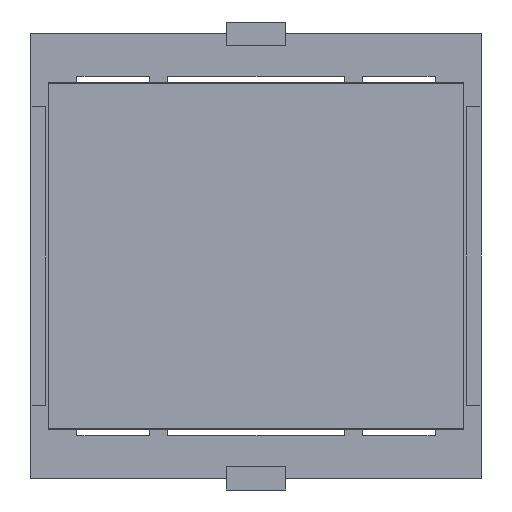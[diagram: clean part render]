
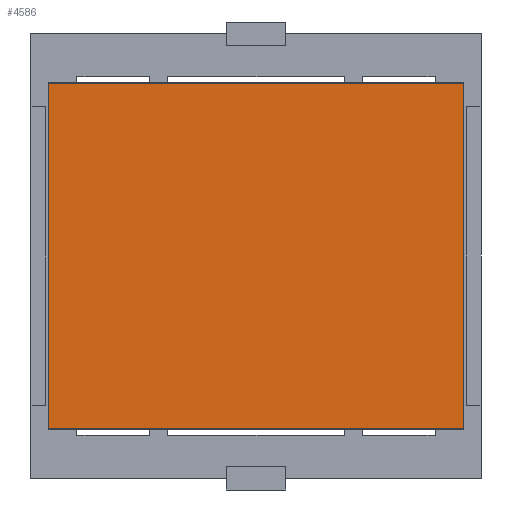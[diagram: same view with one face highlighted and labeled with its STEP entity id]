
A CAD part, front view. The second image highlights one B-rep face of the part: STEP entity #4586.
In plain terms, the highlighted planar face has unit normal (0, -1, 0).
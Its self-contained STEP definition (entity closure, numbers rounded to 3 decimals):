
#113 = DIRECTION ( 'NONE',  ( 0., 1., 0. ) ) ;
#233 = EDGE_CURVE ( 'NONE', #2353, #2047, #1103, .T. ) ;
#828 = DIRECTION ( 'NONE',  ( 1., 0., 0. ) ) ;
#922 = LINE ( 'NONE', #1442, #2585 ) ;
#971 = CARTESIAN_POINT ( 'NONE',  ( -15.712, -18.701, -2.749 ) ) ;
#1033 = CARTESIAN_POINT ( 'NONE',  ( 19.086, -18.701, 26.207 ) ) ;
#1103 = LINE ( 'NONE', #1744, #5875 ) ;
#1170 = CARTESIAN_POINT ( 'NONE',  ( -15.712, -18.701, -2.749 ) ) ;
#1356 = VECTOR ( 'NONE', #2687, 1000. ) ;
#1442 = CARTESIAN_POINT ( 'NONE',  ( -15.712, -18.701, 26.207 ) ) ;
#1549 = VERTEX_POINT ( 'NONE', #5563 ) ;
#1564 = ORIENTED_EDGE ( 'NONE', *, *, #233, .F. ) ;
#1574 = ORIENTED_EDGE ( 'NONE', *, *, #4950, .F. ) ;
#1683 = FACE_OUTER_BOUND ( 'NONE', #2559, .T. ) ;
#1744 = CARTESIAN_POINT ( 'NONE',  ( 19.086, -18.701, -2.749 ) ) ;
#2047 = VERTEX_POINT ( 'NONE', #4556 ) ;
#2353 = VERTEX_POINT ( 'NONE', #1033 ) ;
#2559 = EDGE_LOOP ( 'NONE', ( #4987, #1574, #1564, #3502 ) ) ;
#2585 = VECTOR ( 'NONE', #828, 1000. ) ;
#2687 = DIRECTION ( 'NONE',  ( -1., 0., 0. ) ) ;
#2711 = DIRECTION ( 'NONE',  ( 0., 0., 1. ) ) ;
#2780 = VECTOR ( 'NONE', #3347, 1000. ) ;
#2933 = LINE ( 'NONE', #1170, #2780 ) ;
#3342 = CARTESIAN_POINT ( 'NONE',  ( -15.712, -18.701, 26.207 ) ) ;
#3347 = DIRECTION ( 'NONE',  ( 0., 0., 1. ) ) ;
#3502 = ORIENTED_EDGE ( 'NONE', *, *, #4054, .F. ) ;
#3624 = EDGE_CURVE ( 'NONE', #6418, #1549, #2933, .T. ) ;
#3640 = AXIS2_PLACEMENT_3D ( 'NONE', #3342, #113, #2711 ) ;
#3742 = CARTESIAN_POINT ( 'NONE',  ( -15.712, -18.701, -2.749 ) ) ;
#4054 = EDGE_CURVE ( 'NONE', #1549, #2353, #922, .T. ) ;
#4556 = CARTESIAN_POINT ( 'NONE',  ( 19.086, -18.701, -2.749 ) ) ;
#4586 = ADVANCED_FACE ( 'NONE', ( #1683 ), #5426, .F. ) ;
#4811 = LINE ( 'NONE', #3742, #1356 ) ;
#4921 = DIRECTION ( 'NONE',  ( 0., 0., -1. ) ) ;
#4950 = EDGE_CURVE ( 'NONE', #2047, #6418, #4811, .T. ) ;
#4987 = ORIENTED_EDGE ( 'NONE', *, *, #3624, .F. ) ;
#5426 = PLANE ( 'NONE',  #3640 ) ;
#5563 = CARTESIAN_POINT ( 'NONE',  ( -15.712, -18.701, 26.207 ) ) ;
#5875 = VECTOR ( 'NONE', #4921, 1000. ) ;
#6418 = VERTEX_POINT ( 'NONE', #971 ) ;
